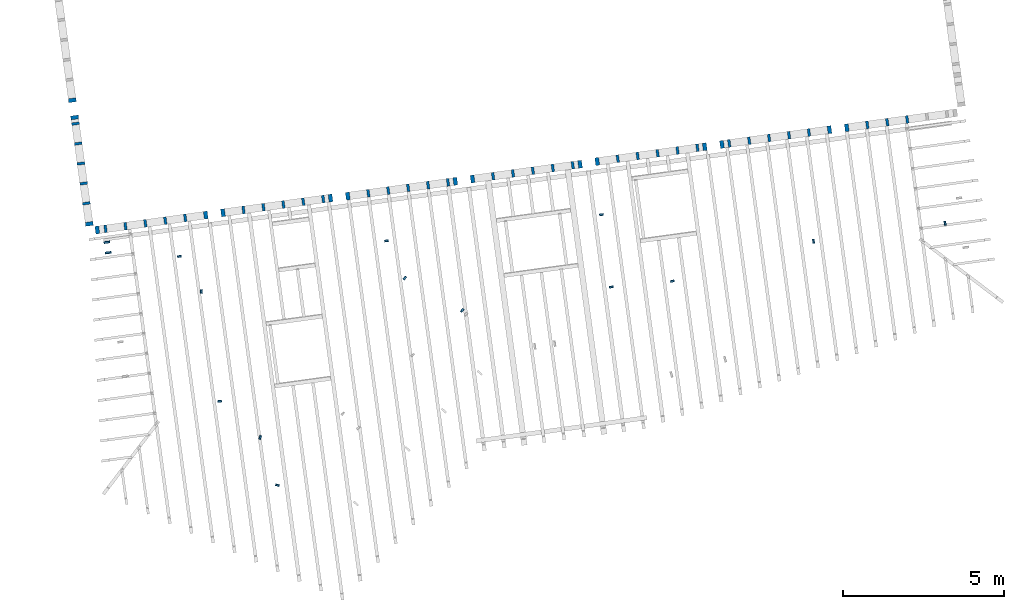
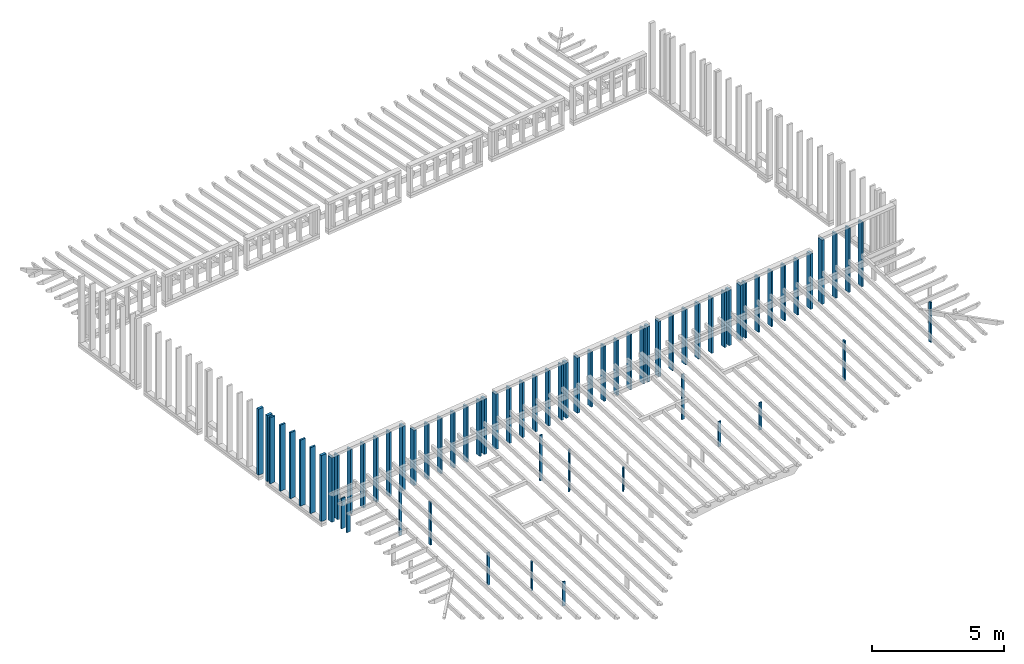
# One storey, part 1 of 16: 69 columns.
"""IFC2X3 building model written with IfcOpenShell, lengths in metres."""

from ifc_helpers import new_model, entity, si_unit, converted_unit, derived_unit, money_unit, direction, frame, origin_with_axes, origin_2d_with_axis, place, context, subcontext, project, spatial, rectangle, extrude, material, type_object, element, save


model = new_model("IFC2X3")

# Units and contexts
model_context = context("Model", 3, precision=1e-05, world=origin_with_axes(), true_north=direction((0.0, 1.0)))
body_context = subcontext(model_context, "Body", "Model", "MODEL_VIEW")
ifc_project = project(units=[si_unit("LENGTHUNIT", "METRE"), si_unit("AREAUNIT", "SQUARE_METRE"), si_unit("VOLUMEUNIT", "CUBIC_METRE"), converted_unit("PLANEANGLEUNIT", "DEGREE", entity("IfcPlaneAngleMeasure", 0.0174532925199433), si_unit("PLANEANGLEUNIT", "RADIAN"), dimensions=[0, 0, 0, 0, 0, 0, 0]), money_unit("EUR"), converted_unit("TIMEUNIT", "Year", entity("IfcTimeMeasure", 31557600.0), si_unit("TIMEUNIT", "SECOND"), dimensions=[0, 0, 1, 0, 0, 0, 0]), si_unit("MASSUNIT", "GRAM", prefix="KILO"), si_unit("THERMODYNAMICTEMPERATUREUNIT", "DEGREE_CELSIUS"), si_unit("LUMINOUSINTENSITYUNIT", "LUMEN"), si_unit("ENERGYUNIT", "JOULE", prefix="MEGA"), derived_unit("THERMALCONDUCTANCEUNIT", [(si_unit("POWERUNIT", "WATT"), 1), (si_unit("LENGTHUNIT", "METRE"), -1), (si_unit("THERMODYNAMICTEMPERATUREUNIT", "KELVIN"), -1)]), derived_unit("SPECIFICHEATCAPACITYUNIT", [(si_unit("ENERGYUNIT", "JOULE"), 1), (si_unit("MASSUNIT", "GRAM", prefix="KILO"), -1), (si_unit("THERMODYNAMICTEMPERATUREUNIT", "KELVIN"), -1)]), derived_unit("MASSDENSITYUNIT", [(si_unit("MASSUNIT", "GRAM", prefix="KILO"), 1), (si_unit("VOLUMEUNIT", "CUBIC_METRE"), -1)])], contexts=[model_context])

# Site, building, storey
site_placement = place(None, origin_with_axes())
site = spatial("IfcSite", under=ifc_project, at=site_placement, Name="Gelände", CompositionType="ELEMENT")
building_placement = place(site_placement, origin_with_axes())
building = spatial("IfcBuilding", under=site, at=building_placement, Name="Gebäude", CompositionType="ELEMENT")
storey_placement = place(building_placement, frame((0.0, 0.0, 3.0), z_axis=(0.0, 0.0, 1.0), x_axis=(1.0, 0.0, 0.0)))
storey = spatial("IfcBuildingStorey", under=building, at=storey_placement, Name="ZG", CompositionType="ELEMENT", Elevation=3.0)

# Columns
ifc_material = material(Name="Bauholz")
column_type_1 = type_object("IfcColumnType", Name="Bauholz 80 x 240", PredefinedType="NOTDEFINED")
for number, where, z_axis, x_axis in (
    (1, (89.54507507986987, -150.61221185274, 0.2720003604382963), (0.0, 0.0, 1.0), (0.9907484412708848, 0.1357111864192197, 0.0)),
    (2, (88.92590682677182, -150.6973928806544, 0.2720003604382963), (0.0, 0.0, 1.0), (0.9907484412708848, 0.1357111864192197, 0.0)),
    (3, (87.68747127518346, -150.8670318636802, 0.2720003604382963), (0.0, 0.0, 1.0), (0.9907484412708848, 0.1357111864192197, 0.0)),
    (4, (87.06820397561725, -150.9514898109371, 0.2720003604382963), (0.0, 0.0, 1.0), (0.9907484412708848, 0.1357111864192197, 0.0)),
    (5, (88.30668905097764, -150.7822123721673, 0.2720003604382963), (0.0, 0.0, 1.0), (0.9907484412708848, 0.1357111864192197, 0.0)),
):
    element("IfcColumn", number, at=place(storey_placement, frame(where, z_axis=z_axis, x_axis=x_axis)), inside=storey, type_object=column_type_1, material=ifc_material, Name="Stütze-018", context=body_context, shape_type="SweptSolid", body=[
        extrude(rectangle(XDim=0.08, YDim=0.24, at=origin_2d_with_axis()), origin_with_axes(), (0.0, 0.0, 1.0), 2.981933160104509),
    ])
for number, where, z_axis, x_axis in (
    (6, (91.35819567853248, -150.3642217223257, 0.2720003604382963), (0.0, 0.0, 1.0), (0.9907484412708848, 0.1357111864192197, 0.0)),
    (7, (91.97741345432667, -150.2794022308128, 0.2720003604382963), (0.0, 0.0, 1.0), (0.9907484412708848, 0.1357111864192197, 0.0)),
    (8, (92.59663123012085, -150.1945827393, 0.2720003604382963), (0.0, 0.0, 1.0), (0.9907484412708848, 0.1357111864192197, 0.0)),
    (9, (93.83506678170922, -150.0249437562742, 0.2720003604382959), (0.0, 0.0, 1.0), (0.9907484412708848, 0.1357111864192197, 0.0)),
    (10, (93.21584900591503, -150.1097632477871, 0.2720003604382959), (0.0, 0.0, 1.0), (0.9907484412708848, 0.1357111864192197, 0.0)),
    (11, (95.23796454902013, -149.8453937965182, 0.2720003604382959), (0.0, 0.0, 1.0), (0.9907484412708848, 0.1357111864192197, 0.0)),
    (12, (95.85718232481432, -149.7605743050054, 0.2720003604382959), (0.0, 0.0, 1.0), (0.9907484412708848, 0.1357111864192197, 0.0)),
    (13, (96.4764001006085, -149.6757548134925, 0.2720003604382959), (0.0, 0.0, 1.0), (0.9907484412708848, 0.1357111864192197, 0.0)),
    (14, (97.09561787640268, -149.5909353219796, 0.2720003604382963), (0.0, 0.0, 1.0), (0.9907484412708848, 0.1357111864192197, 0.0)),
    (15, (97.71483565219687, -149.5061158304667, 0.2720003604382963), (0.0, 0.0, 1.0), (0.9907484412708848, 0.1357111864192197, 0.0)),
    (16, (99.11603728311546, -149.3141813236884, 0.2720003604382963), (0.0, 0.0, 1.0), (0.9907484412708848, 0.1357111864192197, 0.0)),
    (17, (99.73525505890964, -149.2293618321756, 0.2720003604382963), (0.0, 0.0, 1.0), (0.9907484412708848, 0.1357111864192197, 0.0)),
    (18, (100.3544728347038, -149.1445423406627, 0.2720003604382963), (0.0, 0.0, 1.0), (0.9907484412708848, 0.1357111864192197, 0.0)),
):
    element("IfcColumn", number, at=place(storey_placement, frame(where, z_axis=z_axis, x_axis=x_axis)), inside=storey, type_object=column_type_1, material=ifc_material, Name="Stütze-018", context=body_context, shape_type="SweptSolid", body=[
        extrude(rectangle(XDim=0.08, YDim=0.24, at=origin_2d_with_axis()), origin_with_axes(), (0.0, 0.0, 1.0), 2.56193316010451),
    ])
for number, where, z_axis, x_axis in (
    (19, (101.5929083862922, -148.9749033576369, 0.2720003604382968), (0.0, 0.0, 1.0), (0.9907484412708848, 0.1357111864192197, 0.0)),
    (20, (100.973690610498, -149.0597228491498, 0.2720003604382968), (0.0, 0.0, 1.0), (0.9907484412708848, 0.1357111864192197, 0.0)),
    (21, (103.6116308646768, -148.6857651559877, 0.2720003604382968), (0.0, 0.0, 1.0), (0.9907484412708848, 0.1357111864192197, 0.0)),
    (22, (102.9924130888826, -148.7705846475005, 0.2720003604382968), (0.0, 0.0, 1.0), (0.9907484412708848, 0.1357111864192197, 0.0)),
    (23, (104.2308486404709, -148.6009456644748, 0.2720003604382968), (0.0, 0.0, 1.0), (0.9907484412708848, 0.1357111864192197, 0.0)),
):
    element("IfcColumn", number, at=place(storey_placement, frame(where, z_axis=z_axis, x_axis=x_axis)), inside=storey, type_object=column_type_1, material=ifc_material, Name="Stütze-018", context=body_context, shape_type="SweptSolid", body=[
        extrude(rectangle(XDim=0.08, YDim=0.24, at=origin_2d_with_axis()), origin_with_axes(), (0.0, 0.0, 1.0), 2.561933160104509),
    ])
for number, where, z_axis, x_axis in (
    (24, (107.0776077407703, -148.2110010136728, 0.2720003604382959), (0.0, 0.0, 1.0), (0.9907484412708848, 0.1357111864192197, 0.0)),
    (25, (107.6968255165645, -148.1261815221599, 0.2720003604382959), (0.0, 0.0, 1.0), (0.9907484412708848, 0.1357111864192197, 0.0)),
    (26, (106.4583899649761, -148.2958205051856, 0.2720003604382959), (0.0, 0.0, 1.0), (0.9907484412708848, 0.1357111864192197, 0.0)),
    (27, (104.8500664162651, -148.5161261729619, 0.2720003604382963), (0.0, 0.0, 1.0), (0.9907484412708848, 0.1357111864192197, 0.0)),
    (28, (105.4692841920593, -148.431306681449, 0.2720003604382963), (0.0, 0.0, 1.0), (0.9907484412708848, 0.1357111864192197, 0.0)),
):
    element("IfcColumn", number, at=place(storey_placement, frame(where, z_axis=z_axis, x_axis=x_axis)), inside=storey, type_object=column_type_1, material=ifc_material, Name="Stütze-018", context=body_context, shape_type="SweptSolid", body=[
        extrude(rectangle(XDim=0.08, YDim=0.24, at=origin_2d_with_axis()), origin_with_axes(), (0.0, 0.0, 1.0), 2.56193316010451),
    ])
for number, where, z_axis, x_axis in (
    (29, (108.9352610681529, -147.9565425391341, 0.2720003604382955), (0.0, 0.0, 1.0), (0.9907484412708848, 0.1357111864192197, 0.0)),
    (30, (108.3160432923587, -148.041362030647, 0.2720003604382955), (0.0, 0.0, 1.0), (0.9907484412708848, 0.1357111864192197, 0.0)),
):
    element("IfcColumn", number, at=place(storey_placement, frame(where, z_axis=z_axis, x_axis=x_axis)), inside=storey, type_object=column_type_1, material=ifc_material, Name="Stütze-018", context=body_context, shape_type="SweptSolid", body=[
        extrude(rectangle(XDim=0.08, YDim=0.24, at=origin_2d_with_axis()), origin_with_axes(), (0.0, 0.0, 1.0), 2.561933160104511),
    ])
for number, where, z_axis, x_axis in (
    (31, (111.9886899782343, -147.5509053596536, 0.2720003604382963), (0.0, 0.0, 1.0), (0.9907484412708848, 0.1357111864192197, 0.0)),
    (32, (110.7502544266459, -147.7205443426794, 0.2720003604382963), (0.0, 0.0, 1.0), (0.9907484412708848, 0.1357111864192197, 0.0)),
    (33, (111.3694722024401, -147.6357248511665, 0.2720003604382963), (0.0, 0.0, 1.0), (0.9907484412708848, 0.1357111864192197, 0.0)),
):
    element("IfcColumn", number, at=place(storey_placement, frame(where, z_axis=z_axis, x_axis=x_axis)), inside=storey, type_object=column_type_1, material=ifc_material, Name="Stütze-018", context=body_context, shape_type="SweptSolid", body=[
        extrude(rectangle(XDim=0.08, YDim=0.24, at=origin_2d_with_axis()), origin_with_axes(), (0.0, 0.0, 1.0), 2.98193316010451),
    ])
for number, where, z_axis, x_axis in (
    (34, (86.3889400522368, -149.5389704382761, 0.2719999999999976), (0.0, 0.0, 1.0), (0.1357111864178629, -0.9907484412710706, 0.0)),
    (35, (86.30412056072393, -148.919752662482, 0.2719999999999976), (0.0, 0.0, 1.0), (0.1357111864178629, -0.9907484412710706, 0.0)),
    (36, (86.2193010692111, -148.3005348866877, 0.2719999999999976), (0.0, 0.0, 1.0), (0.1357111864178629, -0.9907484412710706, 0.0)),
    (37, (86.13448157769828, -147.6813171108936, 0.2719999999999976), (0.0, 0.0, 1.0), (0.1357111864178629, -0.9907484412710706, 0.0)),
    (38, (86.47375954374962, -150.1581882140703, 0.2719999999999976), (0.0, 0.0, 1.0), (0.1357111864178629, -0.9907484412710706, 0.0)),
):
    element("IfcColumn", number, at=place(storey_placement, frame(where, z_axis=z_axis, x_axis=x_axis)), inside=storey, type_object=column_type_1, material=ifc_material, Name="Stütze-018", context=body_context, shape_type="SweptSolid", body=[
        extrude(rectangle(XDim=0.08, YDim=0.24, at=origin_2d_with_axis()), origin_with_axes(), (0.0, 0.0, 1.0), 3.059999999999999),
    ])
column_type_2 = type_object("IfcColumnType", Name="Bauholz 60 x 120", PredefinedType="NOTDEFINED")
column_1_placement = place(storey_placement, frame((113.1664785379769, -150.7776995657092, -0.8049999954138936), z_axis=(0.0, 0.0, 1.0), x_axis=(0.9907484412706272, 0.1357111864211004, 0.0)))
element("IfcColumn", 39, at=column_1_placement, inside=storey, type_object=column_type_2, material=ifc_material, Name="Stütze-018", context=body_context, shape_type="SweptSolid", body=[
    extrude(rectangle(XDim=0.06, YDim=0.12, at=origin_2d_with_axis()), frame((0.0, 0.0, 0.0), z_axis=(0.0, 0.0, -1.0), x_axis=(-1.0, 0.0, 0.0)), (0.0, 0.0, -1.0), 1.851578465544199),
])
column_2_placement = place(storey_placement, frame((109.0780366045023, -151.3377217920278, -0.8050000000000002), z_axis=(0.0, 0.0, 1.0), x_axis=(0.9907484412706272, 0.1357111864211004, 0.0)))
element("IfcColumn", 40, at=column_2_placement, inside=storey, type_object=column_type_2, material=ifc_material, Name="Stütze-018", context=body_context, shape_type="SweptSolid", body=[
    extrude(rectangle(XDim=0.06, YDim=0.12, at=origin_2d_with_axis()), frame((0.0, 0.0, 0.0), z_axis=(0.0, 0.0, -1.0), x_axis=(-1.0, 0.0, 0.0)), (0.0, 0.0, -1.0), 1.851578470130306),
])
column_3_placement = place(storey_placement, frame((104.6896913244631, -152.5765324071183, -0.8050000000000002), z_axis=(0.0, 0.0, 1.0), x_axis=(0.2723507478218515, -0.962198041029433, 0.0)))
element("IfcColumn", 41, at=column_3_placement, inside=storey, type_object=column_type_2, material=ifc_material, Name="Stütze-018", context=body_context, shape_type="SweptSolid", body=[
    extrude(rectangle(XDim=0.06, YDim=0.12, at=origin_2d_with_axis()), frame((0.0, 0.0, 0.0), z_axis=(0.0, 0.0, -1.0), x_axis=(-1.0, 0.0, 0.0)), (0.0, 0.0, -1.0), 1.262563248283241),
])
column_4_placement = place(storey_placement, frame((102.4829973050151, -150.5115491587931, -0.8050000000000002), z_axis=(0.0, 0.0, 1.0), x_axis=(-0.1357096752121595, 0.9907486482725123, 0.0)))
element("IfcColumn", 42, at=column_4_placement, inside=storey, type_object=column_type_2, material=ifc_material, Name="Stütze-018", context=body_context, shape_type="SweptSolid", body=[
    extrude(rectangle(XDim=0.06, YDim=0.12, at=origin_2d_with_axis()), frame((0.0, 0.0, 0.0), z_axis=(0.0, 0.0, -1.0), x_axis=(-1.0, 0.0, 0.0)), (0.0, 0.0, -1.0), 2.095437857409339),
])
column_5_placement = place(storey_placement, frame((95.80296028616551, -151.3243741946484, -0.8049999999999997), z_axis=(0.0, 0.0, 1.0), x_axis=(-0.1357096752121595, 0.9907486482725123, 0.0)))
element("IfcColumn", 43, at=column_5_placement, inside=storey, type_object=column_type_2, material=ifc_material, Name="Stütze-018", context=body_context, shape_type="SweptSolid", body=[
    extrude(rectangle(XDim=0.06, YDim=0.12, at=origin_2d_with_axis()), frame((0.0, 0.0, 0.0), z_axis=(0.0, 0.0, -1.0), x_axis=(-1.0, 0.0, 0.0)), (0.0, 0.0, -1.0), 2.10966767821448),
])
column_6_placement = place(storey_placement, frame((102.7909238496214, -152.7595228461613, -0.8050000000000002), z_axis=(0.0, 0.0, 1.0), x_axis=(-0.1357096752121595, 0.9907486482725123, 0.0)))
element("IfcColumn", 44, at=column_6_placement, inside=storey, type_object=column_type_2, material=ifc_material, Name="Stütze-018", context=body_context, shape_type="SweptSolid", body=[
    extrude(rectangle(XDim=0.06, YDim=0.12, at=origin_2d_with_axis()), frame((0.0, 0.0, 0.0), z_axis=(0.0, 0.0, -1.0), x_axis=(-1.0, 0.0, 0.0)), (0.0, 0.0, -1.0), 1.165563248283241),
])
column_7_placement = place(storey_placement, frame((96.36969467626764, -152.4833512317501, -0.8050000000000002), z_axis=(0.0, 0.0, 1.0), x_axis=(-0.7262463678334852, 0.6874345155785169, 0.0)))
element("IfcColumn", 45, at=column_7_placement, inside=storey, type_object=column_type_2, material=ifc_material, Name="Stütze-018", context=body_context, shape_type="SweptSolid", body=[
    extrude(rectangle(XDim=0.06, YDim=0.12, at=origin_2d_with_axis()), frame((0.0, 0.0, 0.0), z_axis=(0.0, 0.0, -1.0), x_axis=(-1.0, 0.0, 0.0)), (0.0, 0.0, -1.0), 1.937013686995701),
])
column_8_placement = place(storey_placement, frame((98.15505235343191, -153.4868597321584, -0.8050000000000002), z_axis=(0.0, 0.0, 1.0), x_axis=(-0.7262467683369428, 0.6874340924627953, 0.0)))
element("IfcColumn", 46, at=column_8_placement, inside=storey, type_object=column_type_2, material=ifc_material, Name="Stütze-018", context=body_context, shape_type="SweptSolid", body=[
    extrude(rectangle(XDim=0.06, YDim=0.12, at=origin_2d_with_axis()), frame((0.0, 0.0, 0.0), z_axis=(0.0, 0.0, -1.0), x_axis=(-1.0, 0.0, 0.0)), (0.0, 0.0, -1.0), 1.099346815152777),
])
column_9_placement = place(storey_placement, frame((90.61512129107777, -156.311103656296, -0.8050000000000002), z_axis=(0.0, 0.0, 1.0), x_axis=(-0.1357111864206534, 0.9907484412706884, 0.0)))
element("IfcColumn", 47, at=column_9_placement, inside=storey, type_object=column_type_2, material=ifc_material, Name="Stütze-018", context=body_context, shape_type="SweptSolid", body=[
    extrude(rectangle(XDim=0.06, YDim=0.12, at=origin_2d_with_axis()), frame((0.0, 0.0, 0.0), z_axis=(0.0, 0.0, -1.0), x_axis=(-1.0, 0.0, 0.0)), (0.0, 0.0, -1.0), 1.51425988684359),
])
column_10_placement = place(storey_placement, frame((89.3638486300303, -151.8082497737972, -0.8050000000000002), z_axis=(0.0, 0.0, 1.0), x_axis=(-0.1357111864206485, 0.9907484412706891, 0.0)))
element("IfcColumn", 48, at=column_10_placement, inside=storey, type_object=column_type_2, material=ifc_material, Name="Stütze-018", context=body_context, shape_type="SweptSolid", body=[
    extrude(rectangle(XDim=0.06, YDim=0.12, at=origin_2d_with_axis()), frame((0.0, 0.0, 0.0), z_axis=(0.0, 0.0, -1.0), x_axis=(-1.0, 0.0, 0.0)), (0.0, 0.0, -1.0), 2.165105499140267),
])
column_11_placement = place(storey_placement, frame((90.04567392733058, -152.8989288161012, -0.8050000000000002), z_axis=(0.0, 0.0, 1.0), x_axis=(-0.9907484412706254, -0.1357111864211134, 0.0)))
element("IfcColumn", 49, at=column_11_placement, inside=storey, type_object=column_type_2, material=ifc_material, Name="Stütze-018", context=body_context, shape_type="SweptSolid", body=[
    extrude(rectangle(XDim=0.06, YDim=0.12, at=origin_2d_with_axis()), frame((0.0, 0.0, 0.0), z_axis=(0.0, 0.0, -1.0), x_axis=(-1.0, 0.0, 0.0)), (0.0, 0.0, -1.0), 1.997197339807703),
])
column_12_placement = place(storey_placement, frame((91.87429735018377, -157.4365287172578, -0.8050000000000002), z_axis=(0.0, 0.0, 1.0), x_axis=(-0.9474859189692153, 0.3197974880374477, 0.0)))
element("IfcColumn", 50, at=column_12_placement, inside=storey, type_object=column_type_2, material=ifc_material, Name="Stütze-018", context=body_context, shape_type="SweptSolid", body=[
    extrude(rectangle(XDim=0.06, YDim=0.12, at=origin_2d_with_axis()), frame((0.0, 0.0, 0.0), z_axis=(0.0, 0.0, -1.0), x_axis=(-1.0, 0.0, 0.0)), (0.0, 0.0, -1.0), 1.329103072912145),
])
column_13_placement = place(storey_placement, frame((92.41228870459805, -158.9220491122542, -0.8050000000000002), z_axis=(0.0, 0.0, 1.0), x_axis=(0.3197974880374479, 0.9474859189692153, 0.0)))
element("IfcColumn", 51, at=column_13_placement, inside=storey, type_object=column_type_2, material=ifc_material, Name="Stütze-018", context=body_context, shape_type="SweptSolid", body=[
    extrude(rectangle(XDim=0.06, YDim=0.12, at=origin_2d_with_axis()), frame((0.0, 0.0, 0.0), z_axis=(0.0, 0.0, -1.0), x_axis=(-1.0, 0.0, 0.0)), (0.0, 0.0, -1.0), 1.116224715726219),
])
column_type_3 = type_object("IfcColumnType", Name="Bauholz 60 x 180", PredefinedType="NOTDEFINED")
column_14_placement = place(storey_placement, frame((87.15276753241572, -151.6925208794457, 0.06000000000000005), z_axis=(0.0, 0.0, 1.0), x_axis=(0.1357111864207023, -0.9907484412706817, 0.0)))
element("IfcColumn", 52, at=column_14_placement, inside=storey, type_object=column_type_3, material=ifc_material, Name="Stütze-018", context=body_context, shape_type="SweptSolid", body=[
    extrude(rectangle(XDim=0.06, YDim=0.18, at=origin_2d_with_axis()), origin_with_axes(), (0.0, 0.0, 1.0), 1.358391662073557),
])
column_15_placement = place(storey_placement, frame((87.10835106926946, -151.3682621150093, 0.06000000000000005), z_axis=(0.0, 0.0, 1.0), x_axis=(0.1357111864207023, -0.9907484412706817, 0.0)))
element("IfcColumn", 53, at=column_15_placement, inside=storey, type_object=column_type_3, material=ifc_material, Name="Stütze-018", context=body_context, shape_type="SweptSolid", body=[
    extrude(rectangle(XDim=0.06, YDim=0.18, at=origin_2d_with_axis()), origin_with_axes(), (0.0, 0.0, 1.0), 1.404388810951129),
])
column_type_4 = type_object("IfcColumnType", Name="Bauholz 120 x 240", PredefinedType="NOTDEFINED")
column_16_placement = place(storey_placement, frame((90.18410800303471, -150.5246781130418, 0.2720003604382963), z_axis=(0.0, 0.0, 1.0), x_axis=(0.9907484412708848, 0.1357111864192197, 0.0)))
element("IfcColumn", 54, at=column_16_placement, inside=storey, type_object=column_type_4, material=ifc_material, Name="Stütze-018", context=body_context, shape_type="SweptSolid", body=[
    extrude(rectangle(XDim=0.1200010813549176, YDim=0.24, at=origin_2d_with_axis()), origin_with_axes(), (0.0, 0.0, 1.0), 2.981933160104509),
])
column_17_placement = place(storey_placement, frame((90.71916275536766, -150.4517554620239, 0.2720003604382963), z_axis=(0.0, 0.0, 1.0), x_axis=(0.9907484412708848, 0.1357111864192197, 0.0)))
element("IfcColumn", 55, at=column_17_placement, inside=storey, type_object=column_type_4, material=ifc_material, Name="Stütze-018", context=body_context, shape_type="SweptSolid", body=[
    extrude(rectangle(XDim=0.1200010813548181, YDim=0.24, at=origin_2d_with_axis()), origin_with_axes(), (0.0, 0.0, 1.0), 2.56193316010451),
])
column_18_placement = place(storey_placement, frame((86.81136783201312, -150.9870391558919, 0.2720003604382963), z_axis=(0.0, 0.0, 1.0), x_axis=(0.9907484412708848, 0.1357111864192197, 0.0)))
element("IfcColumn", 56, at=column_18_placement, inside=storey, type_object=column_type_4, material=ifc_material, Name="Stütze-018", context=body_context, shape_type="SweptSolid", body=[
    extrude(rectangle(XDim=0.1200010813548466, YDim=0.24, at=origin_2d_with_axis()), origin_with_axes(), (0.0, 0.0, 1.0), 2.981933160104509),
])
column_19_placement = place(storey_placement, frame((94.06222999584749, -149.993827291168, 0.2720003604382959), z_axis=(0.0, 0.0, 1.0), x_axis=(0.9907484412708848, 0.1357111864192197, 0.0)))
element("IfcColumn", 57, at=column_19_placement, inside=storey, type_object=column_type_4, material=ifc_material, Name="Stütze-018", context=body_context, shape_type="SweptSolid", body=[
    extrude(rectangle(XDim=0.1200010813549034, YDim=0.24, at=origin_2d_with_axis()), origin_with_axes(), (0.0, 0.0, 1.0), 2.56193316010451),
])
column_20_placement = place(storey_placement, frame((97.94199885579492, -149.474999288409, 0.2720003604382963), z_axis=(0.0, 0.0, 1.0), x_axis=(0.9907484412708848, 0.1357111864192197, 0.0)))
element("IfcColumn", 58, at=column_20_placement, inside=storey, type_object=column_type_4, material=ifc_material, Name="Stütze-018", context=body_context, shape_type="SweptSolid", body=[
    extrude(rectangle(XDim=0.120001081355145, YDim=0.24, at=origin_2d_with_axis()), origin_with_axes(), (0.0, 0.0, 1.0), 2.56193316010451),
])
column_21_placement = place(storey_placement, frame((98.47700404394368, -149.4017151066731, 0.2720003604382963), z_axis=(0.0, 0.0, 1.0), x_axis=(0.9907484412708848, 0.1357111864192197, 0.0)))
element("IfcColumn", 59, at=column_21_placement, inside=storey, type_object=column_type_4, material=ifc_material, Name="Stütze-018", context=body_context, shape_type="SweptSolid", body=[
    extrude(rectangle(XDim=0.1200009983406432, YDim=0.24, at=origin_2d_with_axis()), origin_with_axes(), (0.0, 0.0, 1.0), 2.56193316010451),
])
column_22_placement = place(storey_placement, frame((94.59893161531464, -149.9329274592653, 0.2720003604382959), z_axis=(0.0, 0.0, 1.0), x_axis=(0.9907484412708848, 0.1357111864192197, 0.0)))
element("IfcColumn", 60, at=column_22_placement, inside=storey, type_object=column_type_4, material=ifc_material, Name="Stütze-018", context=body_context, shape_type="SweptSolid", body=[
    extrude(rectangle(XDim=0.1200010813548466, YDim=0.24, at=origin_2d_with_axis()), origin_with_axes(), (0.0, 0.0, 1.0), 2.56193316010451),
])
column_23_placement = place(storey_placement, frame((101.820071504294, -148.9437869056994, 0.2720003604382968), z_axis=(0.0, 0.0, 1.0), x_axis=(0.9907484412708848, 0.1357111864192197, 0.0)))
element("IfcColumn", 61, at=column_23_placement, inside=storey, type_object=column_type_4, material=ifc_material, Name="Stütze-018", context=body_context, shape_type="SweptSolid", body=[
    extrude(rectangle(XDim=0.1200007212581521, YDim=0.24, at=origin_2d_with_axis()), origin_with_axes(), (0.0, 0.0, 1.0), 2.561933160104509),
])
column_24_placement = place(storey_placement, frame((105.6964474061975, -148.4001902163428, 0.2720003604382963), z_axis=(0.0, 0.0, 1.0), x_axis=(0.9907484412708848, 0.1357111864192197, 0.0)))
element("IfcColumn", 62, at=column_24_placement, inside=storey, type_object=column_type_4, material=ifc_material, Name="Stütze-018", context=body_context, shape_type="SweptSolid", body=[
    extrude(rectangle(XDim=0.1200010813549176, YDim=0.24, at=origin_2d_with_axis()), origin_with_axes(), (0.0, 0.0, 1.0), 2.56193316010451),
])
column_25_placement = place(storey_placement, frame((102.3533801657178, -148.8581183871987, 0.2720003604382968), z_axis=(0.0, 0.0, 1.0), x_axis=(0.9907484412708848, 0.1357111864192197, 0.0)))
element("IfcColumn", 63, at=column_25_placement, inside=storey, type_object=column_type_4, material=ifc_material, Name="Stütze-018", context=body_context, shape_type="SweptSolid", body=[
    extrude(rectangle(XDim=0.1200010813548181, YDim=0.24, at=origin_2d_with_axis()), origin_with_axes(), (0.0, 0.0, 1.0), 2.561933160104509),
])
column_26_placement = place(storey_placement, frame((106.2314526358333, -148.3269060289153, 0.2720003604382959), z_axis=(0.0, 0.0, 1.0), x_axis=(0.9907484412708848, 0.1357111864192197, 0.0)))
element("IfcColumn", 64, at=column_26_placement, inside=storey, type_object=column_type_4, material=ifc_material, Name="Stütze-018", context=body_context, shape_type="SweptSolid", body=[
    extrude(rectangle(XDim=0.1200010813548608, YDim=0.24, at=origin_2d_with_axis()), origin_with_axes(), (0.0, 0.0, 1.0), 2.56193316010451),
])
column_27_placement = place(storey_placement, frame((109.5742939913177, -147.8690087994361, 0.2720003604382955), z_axis=(0.0, 0.0, 1.0), x_axis=(0.9907484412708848, 0.1357111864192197, 0.0)))
element("IfcColumn", 65, at=column_27_placement, inside=storey, type_object=column_type_4, material=ifc_material, Name="Stütze-018", context=body_context, shape_type="SweptSolid", body=[
    extrude(rectangle(XDim=0.1200010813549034, YDim=0.24, at=origin_2d_with_axis()), origin_with_axes(), (0.0, 0.0, 1.0), 2.561933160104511),
])
column_28_placement = place(storey_placement, frame((110.1112215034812, -147.8080780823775, 0.2720003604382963), z_axis=(0.0, 0.0, 1.0), x_axis=(0.9907484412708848, 0.1357111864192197, 0.0)))
element("IfcColumn", 66, at=column_28_placement, inside=storey, type_object=column_type_4, material=ifc_material, Name="Stütze-018", context=body_context, shape_type="SweptSolid", body=[
    extrude(rectangle(XDim=0.1200010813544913, YDim=0.24, at=origin_2d_with_axis()), origin_with_axes(), (0.0, 0.0, 1.0), 2.98193316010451),
])
for number, where, z_axis, x_axis in (
    (67, (86.56129325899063, -150.7972209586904, 0.2719999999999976), (0.0, 0.0, 1.0), (0.1357111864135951, -0.9907484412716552, 0.0)),
    (68, (86.10801790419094, -147.4881212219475, 0.2719999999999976), (0.0, 0.0, 1.0), (0.1357111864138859, -0.9907484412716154, 0.0)),
    (69, (86.03473386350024, -146.953117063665, 0.2719999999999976), (0.0, 0.0, 1.0), (0.1357111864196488, -0.990748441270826, 0.0)),
):
    element("IfcColumn", number, at=place(storey_placement, frame(where, z_axis=z_axis, x_axis=x_axis)), inside=storey, type_object=column_type_4, material=ifc_material, Name="Stütze-018", context=body_context, shape_type="SweptSolid", body=[
        extrude(rectangle(XDim=0.12, YDim=0.24, at=origin_2d_with_axis()), origin_with_axes(), (0.0, 0.0, 1.0), 3.059999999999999),
    ])

save(model, "model.ifc")
